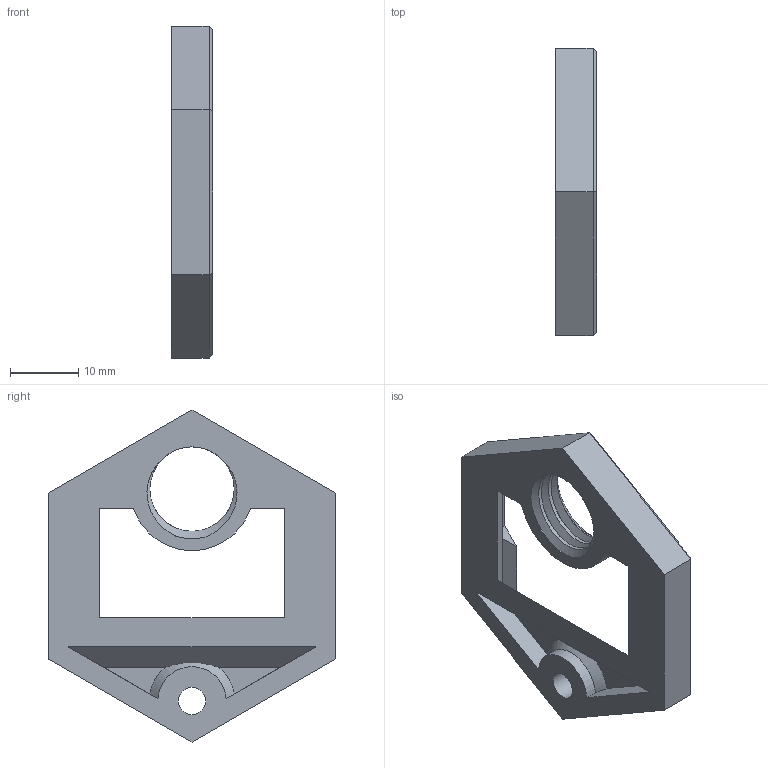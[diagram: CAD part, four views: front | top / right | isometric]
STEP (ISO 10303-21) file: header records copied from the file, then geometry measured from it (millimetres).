
FILE_DESCRIPTION(/* description */ ('','CAx-IF Rec.Pracs.---Representation and Presentation of Product Manufacturing Information (PMI)---4.0---2014-10-13'),/* implementation_level */ '2;1');
FILE_NAME(/* name */ 'Goews Single Hex.step',/* time_stamp */ '2024-11-28T09:43:58-05:00',/* author */ (''),/* organization */ (''),/* preprocessor_version */ 'ST-DEVELOPER v20',/* originating_system */ 'Autodesk Translation Framework v13.20.0.188',/* authorisation */ '');
FILE_SCHEMA (('AP242_MANAGED_MODEL_BASED_3D_ENGINEERING_MIM_LF { 1 0 10303 442 1 1 4 }'));
Length unit declared in the file: millimetre
Products named in the file (1): Goews Single Hex
Bounding box: 6 x 42 x 48.5 mm (x, y, z)
Volume: 4582.8 mm3; surface area: 4032.2 mm2
Topology: 1 solids, 1 shells, 58 faces, 153 edges, 98 vertices
Faces by surface type: plane 41, cylinder 12, cone 3, bspline 2
Full cylindrical faces by diameter (mm): 4 x1, 8 x1, 12.322 x2, 14.55 x2
Entity records: 2971 total; most frequent: CARTESIAN_POINT 1540, ORIENTED_EDGE 306, DIRECTION 257, EDGE_CURVE 153, LINE 111, VECTOR 111, VERTEX_POINT 98, AXIS2_PLACEMENT_3D 73
